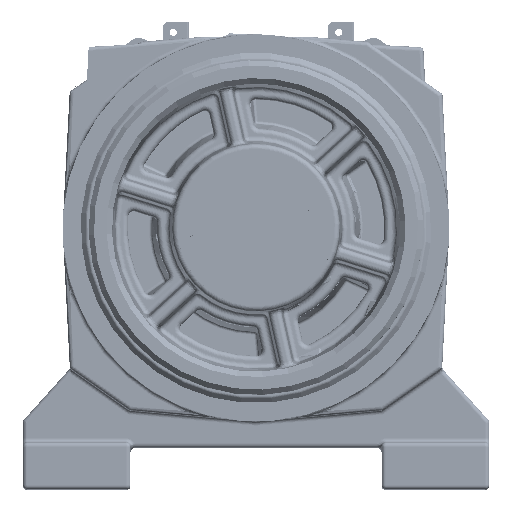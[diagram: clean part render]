
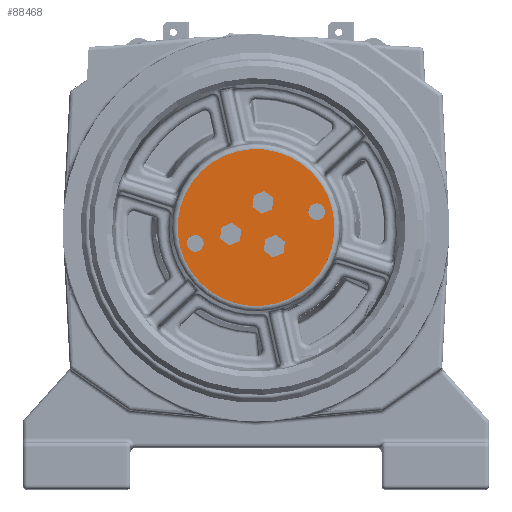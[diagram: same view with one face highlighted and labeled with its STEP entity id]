
A CAD part, top view. The second image highlights one B-rep face of the part: STEP entity #88468.
In plain terms, the highlighted planar face has unit normal (0, 0, 1).
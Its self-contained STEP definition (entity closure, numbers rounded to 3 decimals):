
#748 = CARTESIAN_POINT ( 'NONE',  ( 55.837, -41.424, 1195.906 ) ) ;
#798 = DIRECTION ( 'NONE',  ( -0.252, 0.968, 0. ) ) ;
#2618 = DIRECTION ( 'NONE',  ( 0., 0., -1. ) ) ;
#9134 = VERTEX_POINT ( 'NONE', #164453 ) ;
#11854 = CARTESIAN_POINT ( 'NONE',  ( 53.824, -33.681, 1195.906 ) ) ;
#12784 = DIRECTION ( 'NONE',  ( -0.252, 0.968, 0. ) ) ;
#12851 = EDGE_LOOP ( 'NONE', ( #64058, #23744 ) ) ;
#14463 = DIRECTION ( 'NONE',  ( 0., 0., -1. ) ) ;
#19124 = FACE_BOUND ( 'NONE', #12851, .T. ) ;
#19800 = EDGE_CURVE ( 'NONE', #163469, #116769, #112389, .T. ) ;
#20117 = CIRCLE ( 'NONE', #73466, 8. ) ;
#21755 = ORIENTED_EDGE ( 'NONE', *, *, #179957, .T. ) ;
#22753 = VERTEX_POINT ( 'NONE', #748 ) ;
#23350 = AXIS2_PLACEMENT_3D ( 'NONE', #162731, #165441, #36781 ) ;
#23744 = ORIENTED_EDGE ( 'NONE', *, *, #174523, .T. ) ;
#24025 = CIRCLE ( 'NONE', #97881, 8. ) ;
#24764 = CARTESIAN_POINT ( 'NONE',  ( 0.393, -16.932, 1195.906 ) ) ;
#24845 = DIRECTION ( 'NONE',  ( -0.252, 0.968, 0. ) ) ;
#26004 = VERTEX_POINT ( 'NONE', #103438 ) ;
#26251 = DIRECTION ( 'NONE',  ( -0.252, 0.968, 0. ) ) ;
#28367 = CARTESIAN_POINT ( 'NONE',  ( 2.406, -24.674, 1195.906 ) ) ;
#29824 = AXIS2_PLACEMENT_3D ( 'NONE', #142688, #174145, #101001 ) ;
#30184 = DIRECTION ( 'NONE',  ( -0.252, 0.968, 0. ) ) ;
#30391 = ORIENTED_EDGE ( 'NONE', *, *, #136509, .T. ) ;
#32079 = FACE_BOUND ( 'NONE', #64735, .T. ) ;
#32852 = AXIS2_PLACEMENT_3D ( 'NONE', #28367, #14463, #30184 ) ;
#33923 = FACE_BOUND ( 'NONE', #66645, .T. ) ;
#34972 = ORIENTED_EDGE ( 'NONE', *, *, #58988, .T. ) ;
#35156 = VERTEX_POINT ( 'NONE', #160879 ) ;
#36781 = DIRECTION ( 'NONE',  ( -0.252, 0.968, 0. ) ) ;
#37360 = DIRECTION ( 'NONE',  ( -0.252, 0.968, 0. ) ) ;
#37458 = CARTESIAN_POINT ( 'NONE',  ( 11.285, -58.841, 1195.906 ) ) ;
#37734 = CARTESIAN_POINT ( 'NONE',  ( -60.305, -71.608, 1195.906 ) ) ;
#39071 = CARTESIAN_POINT ( 'NONE',  ( 53.824, -33.681, 1195.906 ) ) ;
#39207 = ORIENTED_EDGE ( 'NONE', *, *, #45537, .T. ) ;
#45537 = EDGE_CURVE ( 'NONE', #54033, #35156, #179506, .T. ) ;
#47840 = DIRECTION ( 'NONE',  ( 0., 0., 1. ) ) ;
#50546 = CARTESIAN_POINT ( 'NONE',  ( -76.835, -67.638, 1195.906 ) ) ;
#51269 = CARTESIAN_POINT ( 'NONE',  ( -28.443, -55.061, 1195.906 ) ) ;
#54033 = VERTEX_POINT ( 'NONE', #141233 ) ;
#58988 = EDGE_CURVE ( 'NONE', #177118, #155218, #20117, .T. ) ;
#59913 = DIRECTION ( 'NONE',  ( -0.252, 0.968, 0. ) ) ;
#60862 = DIRECTION ( 'NONE',  ( 0., 0., -1. ) ) ;
#64058 = ORIENTED_EDGE ( 'NONE', *, *, #70659, .T. ) ;
#64735 = EDGE_LOOP ( 'NONE', ( #30391, #105700 ) ) ;
#65582 = DIRECTION ( 'NONE',  ( 0., 0., -1. ) ) ;
#66535 = AXIS2_PLACEMENT_3D ( 'NONE', #118264, #47840, #59913 ) ;
#66645 = EDGE_LOOP ( 'NONE', ( #173255, #34972 ) ) ;
#67922 = DIRECTION ( 'NONE',  ( 0., 0., -1. ) ) ;
#70659 = EDGE_CURVE ( 'NONE', #161118, #141498, #129724, .T. ) ;
#71971 = CARTESIAN_POINT ( 'NONE',  ( 13.297, -66.583, 1195.906 ) ) ;
#73466 = AXIS2_PLACEMENT_3D ( 'NONE', #158141, #60862, #118290 ) ;
#75595 = FACE_BOUND ( 'NONE', #112314, .T. ) ;
#80717 = AXIS2_PLACEMENT_3D ( 'NONE', #50546, #151454, #121868 ) ;
#85972 = CIRCLE ( 'NONE', #29824, 8. ) ;
#87310 = CARTESIAN_POINT ( 'NONE',  ( -26.431, -62.804, 1195.906 ) ) ;
#88468 = ADVANCED_FACE ( 'NONE', ( #33923, #32079, #145034, #19124, #75595, #132082 ), #163532, .T. ) ;
#96442 = CARTESIAN_POINT ( 'NONE',  ( 4.418, -32.417, 1195.906 ) ) ;
#97881 = AXIS2_PLACEMENT_3D ( 'NONE', #11854, #65582, #24845 ) ;
#98069 = EDGE_LOOP ( 'NONE', ( #144478, #123050 ) ) ;
#101001 = DIRECTION ( 'NONE',  ( -0.252, 0.968, 0. ) ) ;
#103438 = CARTESIAN_POINT ( 'NONE',  ( 51.812, -25.938, 1195.906 ) ) ;
#105154 = CARTESIAN_POINT ( 'NONE',  ( -4.247, -48.773, 1195.906 ) ) ;
#105700 = ORIENTED_EDGE ( 'NONE', *, *, #106574, .T. ) ;
#106199 = EDGE_LOOP ( 'NONE', ( #39207, #150612 ) ) ;
#106574 = EDGE_CURVE ( 'NONE', #26004, #22753, #24025, .T. ) ;
#110332 = AXIS2_PLACEMENT_3D ( 'NONE', #39071, #182595, #181696 ) ;
#112289 = VERTEX_POINT ( 'NONE', #37458 ) ;
#112314 = EDGE_LOOP ( 'NONE', ( #21755, #153968 ) ) ;
#112389 = CIRCLE ( 'NONE', #136057, 8. ) ;
#113358 = CIRCLE ( 'NONE', #110332, 8. ) ;
#113757 = AXIS2_PLACEMENT_3D ( 'NONE', #71971, #140530, #12784 ) ;
#116769 = VERTEX_POINT ( 'NONE', #87310 ) ;
#118264 = CARTESIAN_POINT ( 'NONE',  ( -4.247, -48.773, 1195.906 ) ) ;
#118290 = DIRECTION ( 'NONE',  ( -0.252, 0.968, 0. ) ) ;
#121792 = DIRECTION ( 'NONE',  ( 0., 0., 1. ) ) ;
#121868 = DIRECTION ( 'NONE',  ( -0.252, 0.968, 0. ) ) ;
#123050 = ORIENTED_EDGE ( 'NONE', *, *, #19800, .T. ) ;
#129503 = CARTESIAN_POINT ( 'NONE',  ( -62.317, -63.865, 1195.906 ) ) ;
#129724 = CIRCLE ( 'NONE', #23350, 8. ) ;
#132082 = FACE_OUTER_BOUND ( 'NONE', #106199, .T. ) ;
#132098 = CIRCLE ( 'NONE', #179456, 8. ) ;
#132147 = AXIS2_PLACEMENT_3D ( 'NONE', #105154, #121792, #176447 ) ;
#133424 = CARTESIAN_POINT ( 'NONE',  ( -30.455, -47.319, 1195.906 ) ) ;
#136057 = AXIS2_PLACEMENT_3D ( 'NONE', #51269, #164237, #37360 ) ;
#136509 = EDGE_CURVE ( 'NONE', #22753, #26004, #113358, .T. ) ;
#138330 = EDGE_CURVE ( 'NONE', #112289, #9134, #146253, .T. ) ;
#140313 = AXIS2_PLACEMENT_3D ( 'NONE', #167030, #67922, #26251 ) ;
#140530 = DIRECTION ( 'NONE',  ( 0., 0., -1. ) ) ;
#141233 = CARTESIAN_POINT ( 'NONE',  ( -23.112, 23.816, 1195.906 ) ) ;
#141498 = VERTEX_POINT ( 'NONE', #24764 ) ;
#142688 = CARTESIAN_POINT ( 'NONE',  ( -28.443, -55.061, 1195.906 ) ) ;
#144478 = ORIENTED_EDGE ( 'NONE', *, *, #174592, .T. ) ;
#145034 = FACE_BOUND ( 'NONE', #98069, .T. ) ;
#146253 = CIRCLE ( 'NONE', #140313, 8. ) ;
#146359 = CIRCLE ( 'NONE', #66535, 75. ) ;
#148141 = CIRCLE ( 'NONE', #32852, 8. ) ;
#150612 = ORIENTED_EDGE ( 'NONE', *, *, #180748, .T. ) ;
#151454 = DIRECTION ( 'NONE',  ( 0., 0., 1. ) ) ;
#153968 = ORIENTED_EDGE ( 'NONE', *, *, #138330, .T. ) ;
#155218 = VERTEX_POINT ( 'NONE', #37734 ) ;
#158141 = CARTESIAN_POINT ( 'NONE',  ( -62.317, -63.865, 1195.906 ) ) ;
#160879 = CARTESIAN_POINT ( 'NONE',  ( 14.618, -121.362, 1195.906 ) ) ;
#161118 = VERTEX_POINT ( 'NONE', #96442 ) ;
#162731 = CARTESIAN_POINT ( 'NONE',  ( 2.406, -24.674, 1195.906 ) ) ;
#163469 = VERTEX_POINT ( 'NONE', #133424 ) ;
#163532 = PLANE ( 'NONE',  #80717 ) ;
#163962 = CIRCLE ( 'NONE', #113757, 8. ) ;
#164237 = DIRECTION ( 'NONE',  ( 0., 0., -1. ) ) ;
#164453 = CARTESIAN_POINT ( 'NONE',  ( 15.31, -74.326, 1195.906 ) ) ;
#165441 = DIRECTION ( 'NONE',  ( 0., 0., -1. ) ) ;
#167030 = CARTESIAN_POINT ( 'NONE',  ( 13.297, -66.583, 1195.906 ) ) ;
#167889 = EDGE_CURVE ( 'NONE', #155218, #177118, #132098, .T. ) ;
#171215 = CARTESIAN_POINT ( 'NONE',  ( -64.33, -56.122, 1195.906 ) ) ;
#173255 = ORIENTED_EDGE ( 'NONE', *, *, #167889, .T. ) ;
#174145 = DIRECTION ( 'NONE',  ( 0., 0., -1. ) ) ;
#174523 = EDGE_CURVE ( 'NONE', #141498, #161118, #148141, .T. ) ;
#174592 = EDGE_CURVE ( 'NONE', #116769, #163469, #85972, .T. ) ;
#176447 = DIRECTION ( 'NONE',  ( -0.252, 0.968, 0. ) ) ;
#177118 = VERTEX_POINT ( 'NONE', #171215 ) ;
#179456 = AXIS2_PLACEMENT_3D ( 'NONE', #129503, #2618, #798 ) ;
#179506 = CIRCLE ( 'NONE', #132147, 75. ) ;
#179957 = EDGE_CURVE ( 'NONE', #9134, #112289, #163962, .T. ) ;
#180748 = EDGE_CURVE ( 'NONE', #35156, #54033, #146359, .T. ) ;
#181696 = DIRECTION ( 'NONE',  ( -0.252, 0.968, 0. ) ) ;
#182595 = DIRECTION ( 'NONE',  ( 0., 0., -1. ) ) ;
